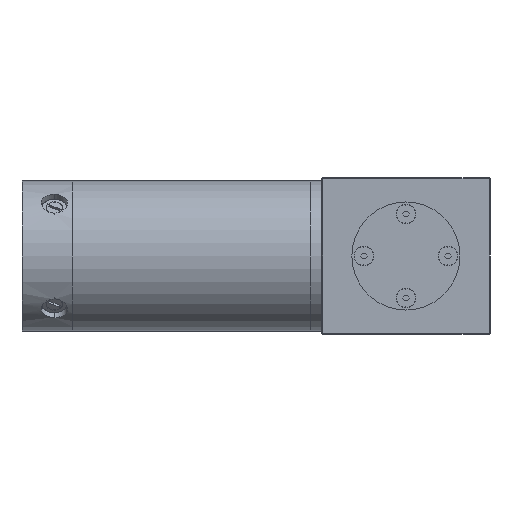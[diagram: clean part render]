
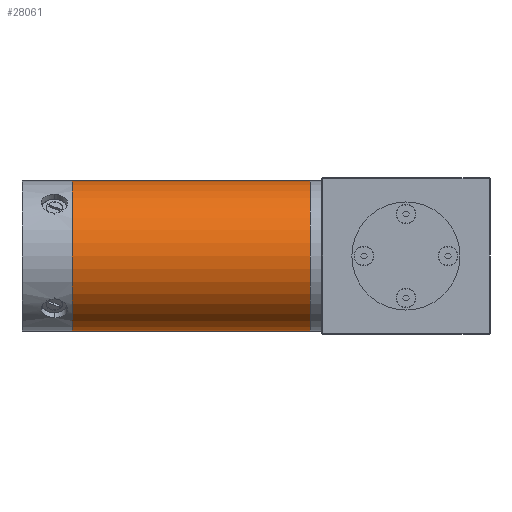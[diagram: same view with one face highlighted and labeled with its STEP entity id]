
A CAD part, left-side view. The second image highlights one B-rep face of the part: STEP entity #28061.
In plain terms, the highlighted cylindrical face has radius 39.685 mm (diameter 79.37 mm), a partial arc.
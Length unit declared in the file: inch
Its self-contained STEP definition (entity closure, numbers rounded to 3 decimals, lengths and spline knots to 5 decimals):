
#228 = ORIENTED_EDGE ( 'NONE', *, *, #30469, .T. ) ;
#1215 = LINE ( 'NONE', #16344, #42175 ) ;
#1923 = CARTESIAN_POINT ( 'NONE',  ( 9.26851, 3.73622, 1.625 ) ) ;
#2514 = EDGE_CURVE ( 'NONE', #10069, #28171, #48504, .T. ) ;
#4755 = FACE_OUTER_BOUND ( 'NONE', #49747, .T. ) ;
#6083 = CIRCLE ( 'NONE', #24017, 1.5624 ) ;
#7235 = CARTESIAN_POINT ( 'NONE',  ( 9.26851, 19694.77953, 1.625 ) ) ;
#9130 = DIRECTION ( 'NONE',  ( 0., -1., 0. ) ) ;
#9243 = ORIENTED_EDGE ( 'NONE', *, *, #2514, .T. ) ;
#10069 = VERTEX_POINT ( 'NONE', #19875 ) ;
#12473 = CARTESIAN_POINT ( 'NONE',  ( 9.26851, 3.73622, 0.0626 ) ) ;
#13818 = EDGE_CURVE ( 'NONE', #32239, #49614, #1215, .T. ) ;
#14256 = VECTOR ( 'NONE', #9130, 39.37008 ) ;
#14597 = CIRCLE ( 'NONE', #34169, 1.5624 ) ;
#16344 = CARTESIAN_POINT ( 'NONE',  ( 9.26851, 19694.77953, 3.1874 ) ) ;
#16524 = DIRECTION ( 'NONE',  ( 0., -1., 0. ) ) ;
#16545 = ORIENTED_EDGE ( 'NONE', *, *, #13818, .F. ) ;
#19875 = CARTESIAN_POINT ( 'NONE',  ( 9.26851, 8.69016, 0.0626 ) ) ;
#20278 = DIRECTION ( 'NONE',  ( 0., 0., 1. ) ) ;
#24017 = AXIS2_PLACEMENT_3D ( 'NONE', #1923, #42942, #51538 ) ;
#27880 = EDGE_CURVE ( 'NONE', #28171, #49614, #6083, .T. ) ;
#28061 = ADVANCED_FACE ( 'NONE', ( #4755 ), #33329, .T. ) ;
#28171 = VERTEX_POINT ( 'NONE', #12473 ) ;
#29073 = DIRECTION ( 'NONE',  ( 0., -1., 0. ) ) ;
#30469 = EDGE_CURVE ( 'NONE', #32239, #10069, #14597, .T. ) ;
#32239 = VERTEX_POINT ( 'NONE', #53029 ) ;
#32249 = DIRECTION ( 'NONE',  ( 0., -1., 0. ) ) ;
#33329 = CYLINDRICAL_SURFACE ( 'NONE', #36541, 1.5624 ) ;
#33932 = CARTESIAN_POINT ( 'NONE',  ( 9.26851, 8.69016, 1.625 ) ) ;
#34169 = AXIS2_PLACEMENT_3D ( 'NONE', #33932, #29073, #46354 ) ;
#36541 = AXIS2_PLACEMENT_3D ( 'NONE', #7235, #32249, #20278 ) ;
#38671 = CARTESIAN_POINT ( 'NONE',  ( 9.26851, 19694.77953, 0.0626 ) ) ;
#42175 = VECTOR ( 'NONE', #16524, 39.37008 ) ;
#42942 = DIRECTION ( 'NONE',  ( 0., 1., 0. ) ) ;
#46354 = DIRECTION ( 'NONE',  ( 0., 0., 1. ) ) ;
#47046 = CARTESIAN_POINT ( 'NONE',  ( 9.26851, 3.73622, 3.1874 ) ) ;
#48504 = LINE ( 'NONE', #38671, #14256 ) ;
#49614 = VERTEX_POINT ( 'NONE', #47046 ) ;
#49747 = EDGE_LOOP ( 'NONE', ( #228, #9243, #51479, #16545 ) ) ;
#51479 = ORIENTED_EDGE ( 'NONE', *, *, #27880, .T. ) ;
#51538 = DIRECTION ( 'NONE',  ( 0., 0., -1. ) ) ;
#53029 = CARTESIAN_POINT ( 'NONE',  ( 9.26851, 8.69016, 3.1874 ) ) ;
